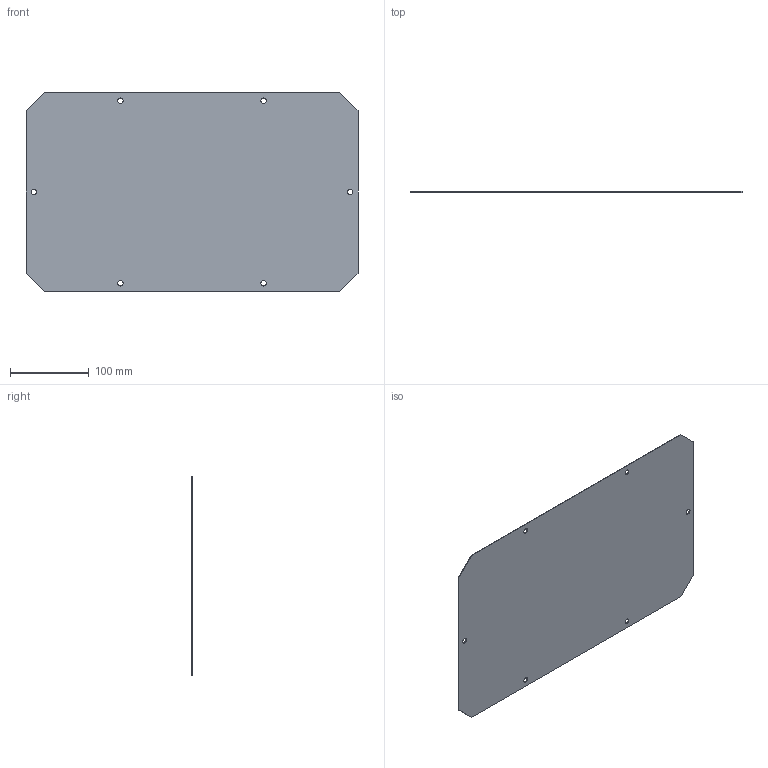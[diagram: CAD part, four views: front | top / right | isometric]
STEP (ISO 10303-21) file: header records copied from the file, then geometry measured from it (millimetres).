
FILE_DESCRIPTION (( 'STEP AP203' ), '1' );
FILE_NAME ('PV 38.21 IS Ïàíåëü ãëóõàÿ.STEP', '2013-01-12T06:55:57', ( 'System' ), ( '' ), 'SwSTEP 2.0', 'SolidWorks 2012', '' );
FILE_SCHEMA (( 'CONFIG_CONTROL_DESIGN' ));
Length unit declared in the file: millimetre
Products named in the file (1): PV 38.21 IS Ïàíåëü ãëóõàÿ
Bounding box: 422 x 1.2 x 252 mm (x, y, z)
Volume: 126066.1 mm3; surface area: 211821.5 mm2
Topology: 1 solids, 1 shells, 22 faces, 60 edges, 40 vertices
Faces by surface type: cylinder 12, plane 10
Entity records: 809 total; most frequent: DIRECTION 130, CARTESIAN_POINT 123, ORIENTED_EDGE 120, EDGE_CURVE 60, AXIS2_PLACEMENT_3D 47, VERTEX_POINT 40, VECTOR 36, LINE 36
